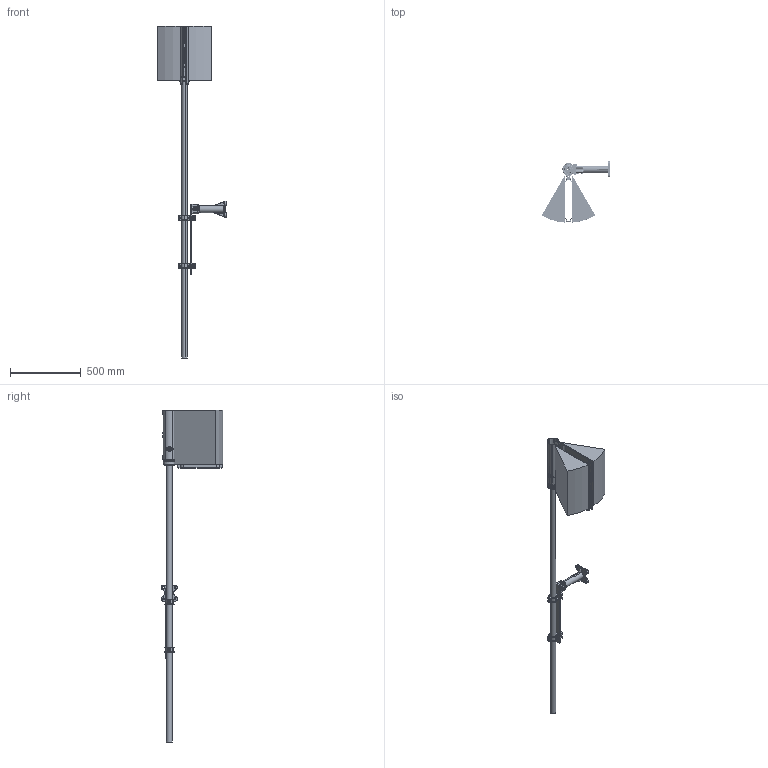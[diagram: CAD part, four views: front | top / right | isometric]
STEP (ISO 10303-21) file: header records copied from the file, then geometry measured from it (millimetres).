
FILE_DESCRIPTION (( 'STEP AP203' ), '1' );
FILE_NAME ('LZY714.TD.42050_D3_Beckenrandbefestigung.STEP', '2024-06-11T07:41:13', ( '' ), ( '' ), 'SwSTEP 2.0', 'SolidWorks 2023', '' );
FILE_SCHEMA (( 'CONFIG_CONTROL_DESIGN' ));
Products named in the file (10): HRO178_Stativrohr 2,0 m; LZX464.TD.xxxxx_FX6x0 Dummy; AHH033_Halterung ohne Gewinde; HRF077_Flansch; ATS014A1_Sockel; BRO076_Montagerohr für FILTRAX; AHH032_Halterung mit Gewinde; LZY714.TD.42050_D3_Beckenrandbefestigung; LZX414.TD-001_Raum f.Schwenkbereich; HPL064_Befestigungslasche
Assembly tree (11 placements, depth 3):
  LZY714.TD.42050_D3_Beckenrandbefestigung
    ATS014A1_Sockel
    AHH032_Halterung mit Gewinde  x2
    AHH033_Halterung ohne Gewinde  x2
    HPL064_Befestigungslasche
    LZX464.TD.xxxxx_FX6x0 Dummy
    BRO076_Montagerohr für FILTRAX
      HRO178_Stativrohr 2,0 m
      HRF077_Flansch
    LZX414.TD-001_Raum f.Schwenkbereich
Bounding box: 486.75 x 437.7 x 2353 mm (x, y, z)
Volume: 24377397.4 mm3; surface area: 2625773.2 mm2
Topology: 61 solids, 61 shells, 7148 faces, 16587 edges, 9119 vertices
Faces by surface type: cylinder 1930, plane 1487, bspline 1399, torus 798, cone 787, sphere 747
Entity records: 238703 total; most frequent: CARTESIAN_POINT 98464, ORIENTED_EDGE 30042, DIRECTION 28536, EDGE_CURVE 15021, AXIS2_PLACEMENT_3D 12028, VERTEX_POINT 8527, EDGE_LOOP 7082, ADVANCED_FACE 6750
